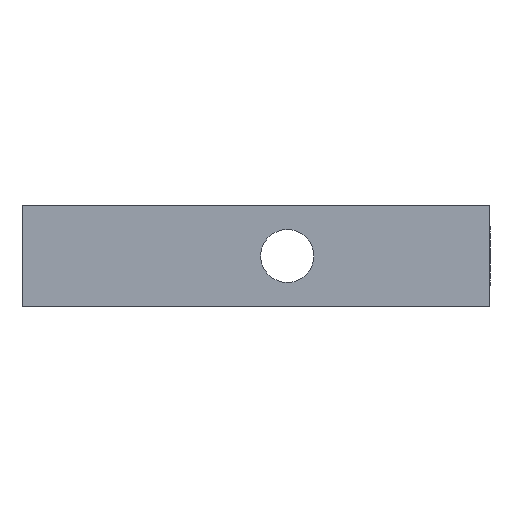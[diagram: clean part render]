
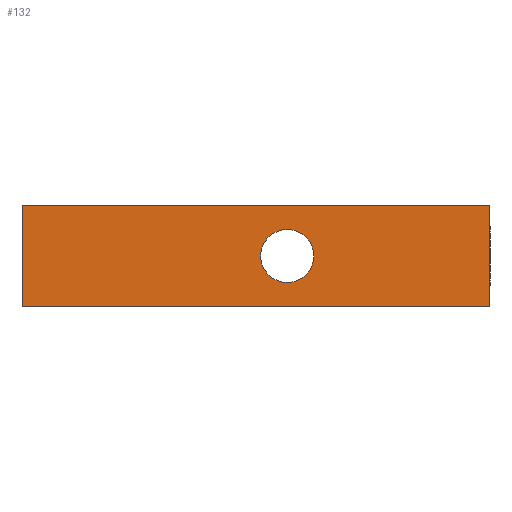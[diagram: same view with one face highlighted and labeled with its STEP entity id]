
A CAD part, left-side view. The second image highlights one B-rep face of the part: STEP entity #132.
In plain terms, the highlighted planar face has unit normal (-1, 0, 0).
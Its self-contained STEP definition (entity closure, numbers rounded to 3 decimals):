
#3 = CARTESIAN_POINT ( 'NONE',  ( 0., 26., 6.5 ) ) ;
#10 = CARTESIAN_POINT ( 'NONE',  ( 0., 26., 3.1 ) ) ;
#11 = CARTESIAN_POINT ( 'NONE',  ( 0., 0., 0. ) ) ;
#14 = EDGE_CURVE ( 'NONE', #273, #348, #158, .T. ) ;
#20 = FACE_OUTER_BOUND ( 'NONE', #166, .T. ) ;
#27 = EDGE_CURVE ( 'NONE', #353, #149, #117, .T. ) ;
#39 = DIRECTION ( 'NONE',  ( 0., 0., -1. ) ) ;
#49 = CARTESIAN_POINT ( 'NONE',  ( 0., 0., 13. ) ) ;
#61 = EDGE_CURVE ( 'NONE', #353, #193, #197, .T. ) ;
#72 = DIRECTION ( 'NONE',  ( 0., 0., -1. ) ) ;
#79 = ORIENTED_EDGE ( 'NONE', *, *, #235, .T. ) ;
#80 = AXIS2_PLACEMENT_3D ( 'NONE', #3, #288, #39 ) ;
#81 = ORIENTED_EDGE ( 'NONE', *, *, #14, .T. ) ;
#84 = LINE ( 'NONE', #11, #458 ) ;
#92 = AXIS2_PLACEMENT_3D ( 'NONE', #207, #463, #310 ) ;
#97 = CARTESIAN_POINT ( 'NONE',  ( 0., 60., 13. ) ) ;
#117 = LINE ( 'NONE', #139, #275 ) ;
#132 = ADVANCED_FACE ( 'NONE', ( #390, #20 ), #298, .F. ) ;
#135 = ORIENTED_EDGE ( 'NONE', *, *, #358, .T. ) ;
#139 = CARTESIAN_POINT ( 'NONE',  ( 0., 0., 13. ) ) ;
#143 = DIRECTION ( 'NONE',  ( 0., -1., 0. ) ) ;
#149 = VERTEX_POINT ( 'NONE', #49 ) ;
#151 = VERTEX_POINT ( 'NONE', #407 ) ;
#158 = CIRCLE ( 'NONE', #346, 3.4 ) ;
#166 = EDGE_LOOP ( 'NONE', ( #135, #367, #233, #392 ) ) ;
#188 = CARTESIAN_POINT ( 'NONE',  ( 0., 0., 13. ) ) ;
#193 = VERTEX_POINT ( 'NONE', #336 ) ;
#197 = LINE ( 'NONE', #97, #315 ) ;
#207 = CARTESIAN_POINT ( 'NONE',  ( 0., 0., 13. ) ) ;
#221 = CARTESIAN_POINT ( 'NONE',  ( 0., 60., 13. ) ) ;
#233 = ORIENTED_EDGE ( 'NONE', *, *, #27, .F. ) ;
#235 = EDGE_CURVE ( 'NONE', #348, #273, #351, .T. ) ;
#253 = DIRECTION ( 'NONE',  ( 0., -1., 0. ) ) ;
#273 = VERTEX_POINT ( 'NONE', #328 ) ;
#275 = VECTOR ( 'NONE', #143, 1000. ) ;
#282 = LINE ( 'NONE', #188, #389 ) ;
#284 = EDGE_LOOP ( 'NONE', ( #79, #81 ) ) ;
#288 = DIRECTION ( 'NONE',  ( 1., 0., 0. ) ) ;
#298 = PLANE ( 'NONE',  #92 ) ;
#310 = DIRECTION ( 'NONE',  ( 0., 0., -1. ) ) ;
#312 = DIRECTION ( 'NONE',  ( 0., 0., -1. ) ) ;
#315 = VECTOR ( 'NONE', #312, 1000. ) ;
#322 = DIRECTION ( 'NONE',  ( 1., 0., 0. ) ) ;
#326 = EDGE_CURVE ( 'NONE', #149, #151, #282, .T. ) ;
#328 = CARTESIAN_POINT ( 'NONE',  ( 0., 26., 9.9 ) ) ;
#336 = CARTESIAN_POINT ( 'NONE',  ( 0., 60., 0. ) ) ;
#346 = AXIS2_PLACEMENT_3D ( 'NONE', #395, #322, #72 ) ;
#348 = VERTEX_POINT ( 'NONE', #10 ) ;
#351 = CIRCLE ( 'NONE', #80, 3.4 ) ;
#353 = VERTEX_POINT ( 'NONE', #221 ) ;
#358 = EDGE_CURVE ( 'NONE', #193, #151, #84, .T. ) ;
#367 = ORIENTED_EDGE ( 'NONE', *, *, #326, .F. ) ;
#372 = DIRECTION ( 'NONE',  ( 0., 0., -1. ) ) ;
#389 = VECTOR ( 'NONE', #372, 1000. ) ;
#390 = FACE_BOUND ( 'NONE', #284, .T. ) ;
#392 = ORIENTED_EDGE ( 'NONE', *, *, #61, .T. ) ;
#395 = CARTESIAN_POINT ( 'NONE',  ( 0., 26., 6.5 ) ) ;
#407 = CARTESIAN_POINT ( 'NONE',  ( 0., 0., 0. ) ) ;
#458 = VECTOR ( 'NONE', #253, 1000. ) ;
#463 = DIRECTION ( 'NONE',  ( 1., 0., 0. ) ) ;
